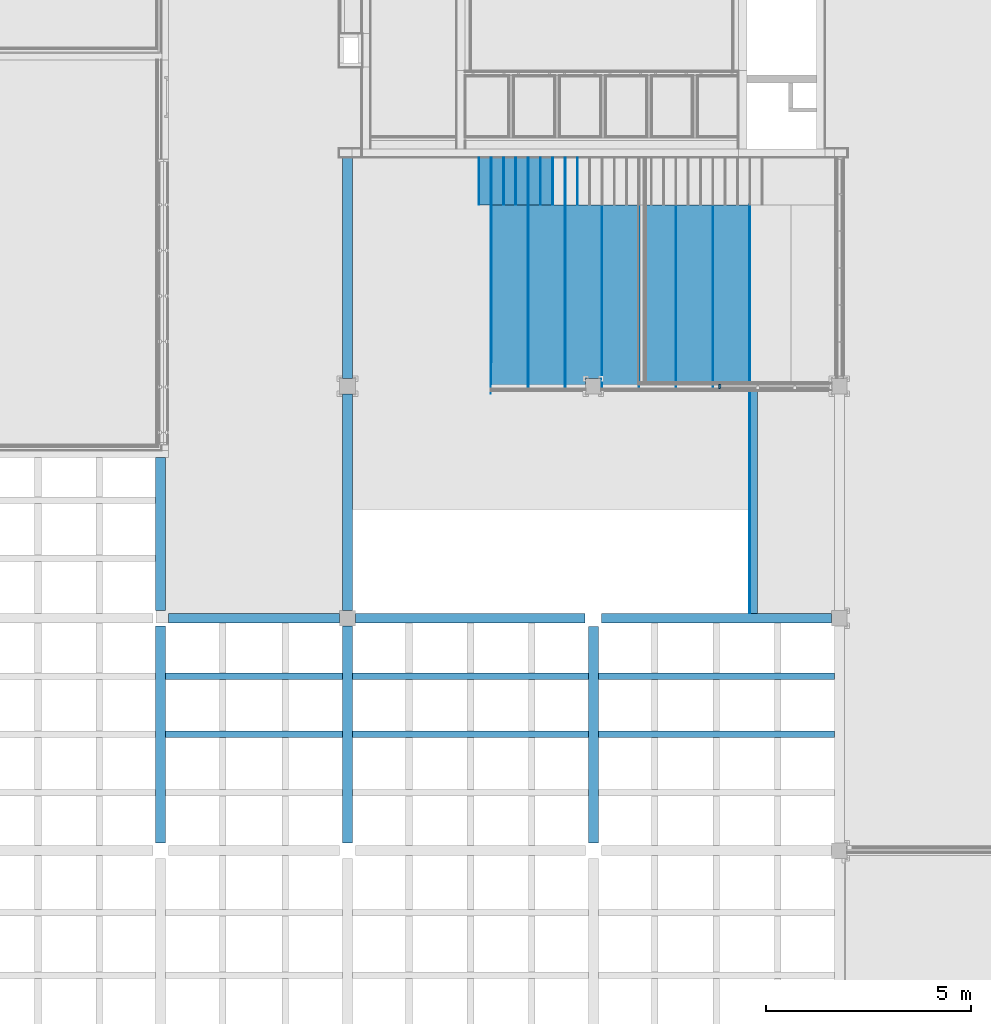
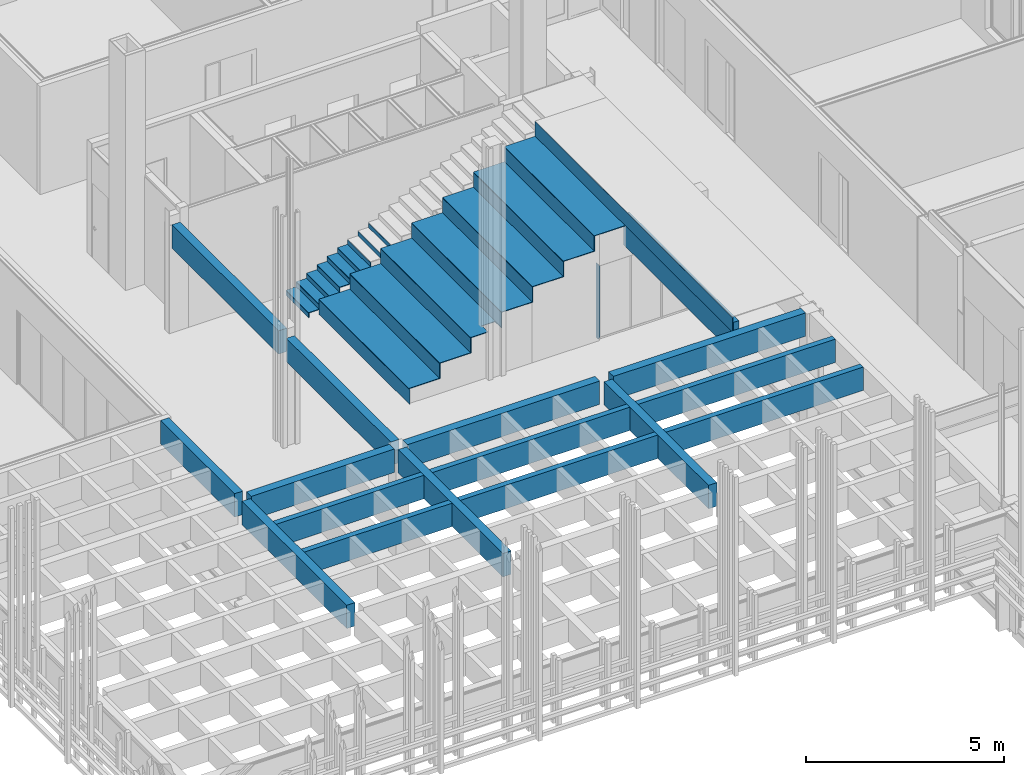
# One storey, part 38 of 139: 31 members, 16 beams, 3 elements without a shape of their own.
"""IFC2X3 building model written with IfcOpenShell, lengths in millimetres."""

from ifc_helpers import new_model, entity, si_unit, converted_unit, derived_unit, money_unit, direction, frame, origin_with_axes, place, context, subcontext, project, spatial, faceted_brep, material, type_object, element, aggregate, save


model = new_model("IFC2X3")

# Units and contexts
model_context = context("Model", 3, precision=0.01, world=origin_with_axes(), true_north=direction((0.0, 1.0)))
body_context = subcontext(model_context, "Body", "Model", "MODEL_VIEW")
ifc_project = project(units=[si_unit("LENGTHUNIT", "METRE", prefix="MILLI"), si_unit("AREAUNIT", "SQUARE_METRE"), si_unit("VOLUMEUNIT", "CUBIC_METRE"), converted_unit("PLANEANGLEUNIT", "DEGREE", entity("IfcPlaneAngleMeasure", 0.0174532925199), si_unit("PLANEANGLEUNIT", "RADIAN"), dimensions=[0, 0, 0, 0, 0, 0, 0]), money_unit("EUR"), converted_unit("TIMEUNIT", "Year", entity("IfcTimeMeasure", 31556926.0), si_unit("TIMEUNIT", "SECOND"), dimensions=[0, 0, 1, 0, 0, 0, 0]), si_unit("MASSUNIT", "GRAM", prefix="KILO"), si_unit("THERMODYNAMICTEMPERATUREUNIT", "DEGREE_CELSIUS"), si_unit("LUMINOUSINTENSITYUNIT", "LUMEN"), si_unit("ENERGYUNIT", "JOULE", prefix="MEGA"), derived_unit("THERMALCONDUCTANCEUNIT", [(si_unit("POWERUNIT", "WATT"), 1), (si_unit("LENGTHUNIT", "METRE"), -1), (si_unit("THERMODYNAMICTEMPERATUREUNIT", "KELVIN"), -1)]), derived_unit("SPECIFICHEATCAPACITYUNIT", [(si_unit("ENERGYUNIT", "JOULE"), 1), (si_unit("MASSUNIT", "GRAM", prefix="KILO"), -1), (si_unit("THERMODYNAMICTEMPERATUREUNIT", "KELVIN"), -1)]), derived_unit("MASSDENSITYUNIT", [(si_unit("MASSUNIT", "GRAM", prefix="KILO"), 1), (si_unit("VOLUMEUNIT", "CUBIC_METRE"), -1)])], contexts=[model_context])

# Site, building, storey
site_placement = place(None, origin_with_axes())
site = spatial("IfcSite", under=ifc_project, at=site_placement, Name="Kolde pst 67a", CompositionType="ELEMENT")
building_placement = place(site_placement, origin_with_axes())
building = spatial("IfcBuilding", under=site, at=building_placement, Name="Riigigümnaasium", CompositionType="ELEMENT")
storey_placement = place(building_placement, frame((0.0, 0.0, 4600.0), z_axis=(0.0, 0.0, 1.0), x_axis=(1.0, 0.0, 0.0)))
storey = spatial("IfcBuildingStorey", under=building, at=storey_placement, Name="2. korrus", CompositionType="ELEMENT", Elevation=4600.0)

# Stair, members
stair_1_placement = place(storey_placement, frame((39441.4880734, 44504.9999526, 0.0), z_axis=(0.0, 0.0, 1.0), x_axis=(1.0, 0.0, 0.0)))
stair_1 = element("IfcStair", 1, at=stair_1_placement, inside=storey, Name="Aula astmed", ShapeType="NOTDEFINED")
ifc_material_1 = material(Name="_VIIMISTLUSKIHT - viimistlus vastavalt SA osale")
member_type_1 = type_object("IfcMemberType", Name="IfcMember", PredefinedType="USERDEFINED")
member_1_placement = place(stair_1_placement, frame((-5.56923396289e-07, 575.0, 136.25), z_axis=(0.0, 0.0, 1.0), x_axis=(9.68563886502e-10, -1.0, 0.0)))
member_1 = element("IfcMember", 2, at=member_1_placement, type_object=member_type_1, material=ifc_material_1, Name="TV TÕUS - 163", ObjectType="Stair Riser", context=body_context, shape_type="Brep", body=[
    faceted_brep([(575.0, 0.0, 0.0), (575.0, 20.0, 0.0), (-575.0, 20.0, 0.0), (-575.0, 0.0, 0.0), (575.0, 0.0, -136.25), (575.0, 20.0, -136.25), (-575.0, 20.0, -136.25), (-575.0, 0.0, -136.25)], [[[0, 1, 2, 3]], [[0, 4, 5, 1]], [[1, 5, 6, 2]], [[3, 2, 6, 7]], [[4, 0, 3, 7]], [[5, 4, 7, 6]]]),
])
member_2_placement = place(stair_1_placement, frame((299.999999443, 575.000000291, 292.5), z_axis=(0.0, 0.0, 1.0), x_axis=(9.68563876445e-10, -1.0, 0.0)))
member_2 = element("IfcMember", 3, at=member_2_placement, type_object=member_type_1, material=ifc_material_1, Name="TV TÕUS - 164", ObjectType="Stair Riser", context=body_context, shape_type="Brep", body=[
    faceted_brep([(575.0, 0.0, 0.0), (575.0, 20.0, 0.0), (-575.0, 20.0, 0.0), (-575.0, 0.0, 0.0), (575.0, 0.0, -136.25), (575.0, 20.0, -136.25), (-575.0, 20.0, -136.25), (-575.0, 0.0, -136.25)], [[[0, 1, 2, 3]], [[0, 4, 5, 1]], [[1, 5, 6, 2]], [[3, 2, 6, 7]], [[4, 0, 3, 7]], [[5, 4, 7, 6]]]),
])
member_3_placement = place(stair_1_placement, frame((599.999999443, 575.000000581, 448.75), z_axis=(0.0, 0.0, 1.0), x_axis=(9.68563876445e-10, -1.0, 0.0)))
member_3 = element("IfcMember", 4, at=member_3_placement, type_object=member_type_1, material=ifc_material_1, Name="TV TÕUS - 165", ObjectType="Stair Riser", context=body_context, shape_type="Brep", body=[
    faceted_brep([(575.0, 0.0, 0.0), (575.0, 20.0, 0.0), (-575.0, 20.0, 0.0), (-575.0, 0.0, 0.0), (575.0, 0.0, -136.25), (575.0, 20.0, -136.25), (-575.0, 20.0, -136.25), (-575.0, 0.0, -136.25)], [[[0, 1, 2, 3]], [[0, 4, 5, 1]], [[1, 5, 6, 2]], [[3, 2, 6, 7]], [[4, 0, 3, 7]], [[5, 4, 7, 6]]]),
])
member_4_placement = place(stair_1_placement, frame((899.999999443, 575.000000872, 605.0), z_axis=(0.0, 0.0, 1.0), x_axis=(9.68563876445e-10, -1.0, 0.0)))
member_4 = element("IfcMember", 5, at=member_4_placement, type_object=member_type_1, material=ifc_material_1, Name="TV TÕUS - 166", ObjectType="Stair Riser", context=body_context, shape_type="Brep", body=[
    faceted_brep([(575.0, 0.0, 0.0), (575.0, 20.0, 0.0), (-575.0, 20.0, 0.0), (-575.0, 0.0, 0.0), (575.0, 0.0, -136.25), (575.0, 20.0, -136.25), (-575.0, 20.0, -136.25), (-575.0, 0.0, -136.25)], [[[0, 1, 2, 3]], [[0, 4, 5, 1]], [[1, 5, 6, 2]], [[3, 2, 6, 7]], [[4, 0, 3, 7]], [[5, 4, 7, 6]]]),
])
member_5_placement = place(stair_1_placement, frame((1199.99999944, 575.000001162, 761.25), z_axis=(0.0, 0.0, 1.0), x_axis=(9.68563972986e-10, -1.0, 0.0)))
member_5 = element("IfcMember", 6, at=member_5_placement, type_object=member_type_1, material=ifc_material_1, Name="TV TÕUS - 167", ObjectType="Stair Riser", context=body_context, shape_type="Brep", body=[
    faceted_brep([(575.0, 0.0, 0.0), (575.0, 20.0, 0.0), (-575.0, 20.0, 0.0), (-575.0, 0.0, 0.0), (575.0, 0.0, -136.25), (575.0, 20.0, -136.25), (-575.0, 20.0, -136.25), (-575.0, 0.0, -136.25)], [[[0, 1, 2, 3]], [[0, 4, 5, 1]], [[1, 5, 6, 2]], [[3, 2, 6, 7]], [[4, 0, 3, 7]], [[5, 4, 7, 6]]]),
])
member_6_placement = place(stair_1_placement, frame((1499.99999944, 575.000001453, 917.5), z_axis=(0.0, 0.0, 1.0), x_axis=(9.68563972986e-10, -1.0, 0.0)))
member_6 = element("IfcMember", 7, at=member_6_placement, type_object=member_type_1, material=ifc_material_1, Name="TV TÕUS - 168", ObjectType="Stair Riser", context=body_context, shape_type="Brep", body=[
    faceted_brep([(575.0, 0.0, 0.0), (575.0, 20.0, 0.0), (-575.0, 20.0, 0.0), (-575.0, 0.0, 0.0), (575.0, 0.0, -136.25), (575.0, 20.0, -136.25), (-575.0, 20.0, -136.25), (-575.0, 0.0, -136.25)], [[[0, 1, 2, 3]], [[0, 4, 5, 1]], [[1, 5, 6, 2]], [[3, 2, 6, 7]], [[4, 0, 3, 7]], [[5, 4, 7, 6]]]),
])
member_7_placement = place(stair_1_placement, frame((1799.99999944, 575.000001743, 1073.75), z_axis=(0.0, 0.0, 1.0), x_axis=(9.68563972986e-10, -1.0, 0.0)))
member_7 = element("IfcMember", 8, at=member_7_placement, type_object=member_type_1, material=ifc_material_1, Name="TV TÕUS - 169", ObjectType="Stair Riser", context=body_context, shape_type="Brep", body=[
    faceted_brep([(575.0, 0.0, 0.0), (575.0, 20.0, 0.0), (-575.0, 20.0, 0.0), (-575.0, 0.0, 0.0), (575.0, 0.0, -136.25), (575.0, 20.0, -136.25), (-575.0, 20.0, -136.25), (-575.0, 0.0, -136.25)], [[[0, 1, 2, 3]], [[0, 4, 5, 1]], [[1, 5, 6, 2]], [[3, 2, 6, 7]], [[4, 0, 3, 7]], [[5, 4, 7, 6]]]),
])
member_8_placement = place(stair_1_placement, frame((2099.99999944, 575.000002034, 1230.0), z_axis=(0.0, 0.0, 1.0), x_axis=(9.68563972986e-10, -1.0, 0.0)))
member_8 = element("IfcMember", 9, at=member_8_placement, type_object=member_type_1, material=ifc_material_1, Name="TV TÕUS - 170", ObjectType="Stair Riser", context=body_context, shape_type="Brep", body=[
    faceted_brep([(575.0, 0.0, 0.0), (575.0, 20.0, 0.0), (-575.0, 20.0, 0.0), (-575.0, 0.0, 0.0), (575.0, 0.0, -136.25), (575.0, 20.0, -136.25), (-575.0, 20.0, -136.25), (-575.0, 0.0, -136.25)], [[[0, 1, 2, 3]], [[0, 4, 5, 1]], [[1, 5, 6, 2]], [[3, 2, 6, 7]], [[4, 0, 3, 7]], [[5, 4, 7, 6]]]),
])
member_9_placement = place(stair_1_placement, frame((2399.99999944, 575.000002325, 1386.25), z_axis=(0.0, 0.0, 1.0), x_axis=(9.68563972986e-10, -1.0, 0.0)))
member_9 = element("IfcMember", 10, at=member_9_placement, type_object=member_type_1, material=ifc_material_1, Name="TV TÕUS - 171", ObjectType="Stair Riser", context=body_context, shape_type="Brep", body=[
    faceted_brep([(575.0, 0.0, 0.0), (575.0, 20.0, 0.0), (-575.0, 20.0, 0.0), (-575.0, 0.0, 0.0), (575.0, 0.0, -136.25), (575.0, 20.0, -136.25), (-575.0, 20.0, -136.25), (-575.0, 0.0, -136.25)], [[[0, 1, 2, 3]], [[0, 4, 5, 1]], [[1, 5, 6, 2]], [[3, 2, 6, 7]], [[4, 0, 3, 7]], [[5, 4, 7, 6]]]),
])

stair_2_placement = place(storey_placement, frame((40219.9992293, 44504.9999598, 0.0), z_axis=(0.0, 0.0, 1.0), x_axis=(1.0, 0.0, 0.0)))
stair_2 = element("IfcStair", 11, at=stair_2_placement, inside=storey, Name="Aula astmed", ShapeType="NOTDEFINED")
member_10_placement = place(stair_2_placement, frame((-479.999998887, -2300.0, 448.75), z_axis=(0.0, 0.0, 1.0), x_axis=(0.0, -1.0, 0.0)))
member_10 = element("IfcMember", 12, at=member_10_placement, type_object=member_type_1, material=ifc_material_1, Name="TV TÕUS - 197", ObjectType="Stair Riser", context=body_context, shape_type="Brep", body=[
    faceted_brep([(2300.0, 0.0, 0.0), (1426.87197604, 20.0, 0.0), (-2300.0, 20.0, 0.0), (-2300.0, 0.0, 0.0), (2300.0, 0.0, -448.75), (1426.87197604, 20.0, -448.75), (-2300.0, 20.0, -448.75), (-2300.0, 0.0, -448.75)], [[[0, 1, 2, 3]], [[0, 4, 5, 1]], [[1, 5, 6, 2]], [[3, 2, 6, 7]], [[4, 0, 3, 7]], [[5, 4, 7, 6]]]),
])
member_11_placement = place(stair_2_placement, frame((420.000000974, -2300.0, 917.5), z_axis=(0.0, 0.0, 1.0), x_axis=(0.0, -1.0, 0.0)))
member_11 = element("IfcMember", 13, at=member_11_placement, type_object=member_type_1, material=ifc_material_1, Name="TV TÕUS - 198", ObjectType="Stair Riser", context=body_context, shape_type="Brep", body=[
    faceted_brep([(2235.00004126, 0.0, 0.0), (2235.00004123, 20.0, 0.0), (-2300.0, 20.0, 0.0), (-2300.0, 0.0, 0.0), (2235.00004126, 0.0, -448.75), (2235.00004123, 20.0, -448.75), (-2300.0, 20.0, -448.75), (-2300.0, 0.0, -448.75)], [[[0, 1, 2, 3]], [[0, 4, 5, 1]], [[1, 5, 6, 2]], [[3, 2, 6, 7]], [[4, 0, 3, 7]], [[5, 4, 7, 6]]]),
])
member_12_placement = place(stair_2_placement, frame((1320.00000083, -2300.0, 1386.25), z_axis=(0.0, 0.0, 1.0), x_axis=(0.0, -1.0, 0.0)))
member_12 = element("IfcMember", 14, at=member_12_placement, type_object=member_type_1, material=ifc_material_1, Name="TV TÕUS - 199", ObjectType="Stair Riser", context=body_context, shape_type="Brep", body=[
    faceted_brep([(2235.00004126, 0.0, 0.0), (2235.00004123, 20.0, 0.0), (-2300.0, 20.0, 0.0), (-2300.0, 0.0, 0.0), (2235.00004126, 0.0, -448.75), (2235.00004123, 20.0, -448.75), (-2300.0, 20.0, -448.75), (-2300.0, 0.0, -448.75)], [[[0, 1, 2, 3]], [[0, 4, 5, 1]], [[1, 5, 6, 2]], [[3, 2, 6, 7]], [[4, 0, 3, 7]], [[5, 4, 7, 6]]]),
])
member_13_placement = place(stair_2_placement, frame((2220.0000007, -2300.0, 1855.0), z_axis=(0.0, 0.0, 1.0), x_axis=(0.0, -1.0, 0.0)))
member_13 = element("IfcMember", 15, at=member_13_placement, type_object=member_type_1, material=ifc_material_1, Name="TV TÕUS - 200", ObjectType="Stair Riser", context=body_context, shape_type="Brep", body=[
    faceted_brep([(2235.00004126, 0.0, 0.0), (2235.00004123, 20.0, 0.0), (-2300.0, 20.0, 0.0), (-2300.0, 0.0, 0.0), (2235.00004126, 0.0, -448.75), (2235.00004123, 20.0, -448.75), (-2300.0, 20.0, -448.75), (-2300.0, 0.0, -448.75)], [[[0, 1, 2, 3]], [[0, 4, 5, 1]], [[1, 5, 6, 2]], [[3, 2, 6, 7]], [[4, 0, 3, 7]], [[5, 4, 7, 6]]]),
])
member_14_placement = place(stair_2_placement, frame((3120.00000056, -2300.0, 2323.75), z_axis=(0.0, 0.0, 1.0), x_axis=(0.0, -1.0, 0.0)))
member_14 = element("IfcMember", 16, at=member_14_placement, type_object=member_type_1, material=ifc_material_1, Name="TV TÕUS - 201", ObjectType="Stair Riser", context=body_context, shape_type="Brep", body=[
    faceted_brep([(2235.00004126, 0.0, 0.0), (2235.00004123, 20.0, 0.0), (-2300.0, 20.0, 0.0), (-2300.0, 0.0, 0.0), (2235.00004126, 0.0, -448.75), (2235.00004123, 20.0, -448.75), (-2300.0, 20.0, -448.75), (-2300.0, 0.0, -448.75)], [[[0, 1, 2, 3]], [[0, 4, 5, 1]], [[1, 5, 6, 2]], [[3, 2, 6, 7]], [[4, 0, 3, 7]], [[5, 4, 7, 6]]]),
])
member_15_placement = place(stair_2_placement, frame((4020.00000042, -2300.0, 2792.5), z_axis=(0.0, 0.0, 1.0), x_axis=(0.0, -1.0, 0.0)))
member_15 = element("IfcMember", 17, at=member_15_placement, type_object=member_type_1, material=ifc_material_1, Name="TV TÕUS - 202", ObjectType="Stair Riser", context=body_context, shape_type="Brep", body=[
    faceted_brep([(2235.00004126, 0.0, 0.0), (2235.00004123, 20.0, 0.0), (-2300.0, 20.0, 0.0), (-2300.0, 0.0, 0.0), (2235.00004126, 0.0, -448.75), (2235.00004123, 20.0, -448.75), (-2300.0, 20.0, -448.75), (-2300.0, 0.0, -448.75)], [[[0, 1, 2, 3]], [[0, 4, 5, 1]], [[1, 5, 6, 2]], [[3, 2, 6, 7]], [[4, 0, 3, 7]], [[5, 4, 7, 6]]]),
])
member_16_placement = place(stair_2_placement, frame((4920.00000028, -2300.0, 3261.25), z_axis=(0.0, 0.0, 1.0), x_axis=(0.0, -1.0, 0.0)))
member_16 = element("IfcMember", 18, at=member_16_placement, type_object=member_type_1, material=ifc_material_1, Name="TV TÕUS - 203", ObjectType="Stair Riser", context=body_context, shape_type="Brep", body=[
    faceted_brep([(2235.00004126, 0.0, 0.0), (2235.00004123, 20.0, 0.0), (-2300.0, 20.0, 0.0), (-2300.0, 0.0, 0.0), (2235.00004126, 0.0, -448.75), (2235.00004123, 20.0, -448.75), (-2300.0, 20.0, -448.75), (-2300.0, 0.0, -448.75)], [[[0, 1, 2, 3]], [[0, 4, 5, 1]], [[1, 5, 6, 2]], [[3, 2, 6, 7]], [[4, 0, 3, 7]], [[5, 4, 7, 6]]]),
])
member_17_placement = place(stair_2_placement, frame((5820.00000014, -2300.0, 3730.0), z_axis=(0.0, 0.0, 1.0), x_axis=(0.0, -1.0, 0.0)))
member_17 = element("IfcMember", 19, at=member_17_placement, type_object=member_type_1, material=ifc_material_1, Name="TV TÕUS - 204", ObjectType="Stair Riser", context=body_context, shape_type="Brep", body=[
    faceted_brep([(7644.99995982, 0.0, 0.0), (7644.99995982, 20.0, 0.0), (-2300.0, 20.0, 0.0), (-2300.0, 0.0, 0.0), (7644.99995982, 0.0, -448.75), (7644.99995982, 20.0, -448.75), (-2300.0, 20.0, -448.75), (-2300.0, 0.0, -448.75)], [[[0, 1, 2, 3]], [[0, 4, 5, 1]], [[1, 5, 6, 2]], [[3, 2, 6, 7]], [[4, 0, 3, 7]], [[5, 4, 7, 6]]]),
])

# Member
member_type_2 = type_object("IfcMemberType", Name="IfcMember", PredefinedType="USERDEFINED")
member_18_placement = place(stair_1_placement, frame((-5.56923396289e-07, 575.0, 156.25), z_axis=(0.0, 0.0, 1.0), x_axis=(9.68563886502e-10, -1.0, 0.0)))
member_18 = element("IfcMember", 20, at=member_18_placement, type_object=member_type_2, material=ifc_material_1, Name="TV ASTE - 163", ObjectType="Stair Tread", context=body_context, shape_type="Brep", body=[
    faceted_brep([(-575.0, 0.0, -20.0), (575.0, 0.0, -20.0), (575.0, 0.0, 0.0), (-575.0, 0.0, 0.0), (-575.0, 320.00000112, -20.0), (575.0, 320.000000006, -20.0), (575.0, 320.000000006, 0.0), (-575.0, 320.00000112, 0.0)], [[[0, 1, 2, 3]], [[0, 4, 5, 1]], [[1, 5, 6, 2]], [[3, 2, 6, 7]], [[4, 0, 3, 7]], [[5, 4, 7, 6]]]),
])

member_19_placement = place(stair_1_placement, frame((299.999999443, 575.000000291, 312.5), z_axis=(0.0, 0.0, 1.0), x_axis=(9.68563876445e-10, -1.0, 0.0)))
member_19 = element("IfcMember", 21, at=member_19_placement, type_object=member_type_2, material=ifc_material_1, Name="TV ASTE - 164", ObjectType="Stair Tread", context=body_context, shape_type="Brep", body=[
    faceted_brep([(-575.0, 0.0, -20.0), (575.0, 0.0, -20.0), (575.0, 0.0, 0.0), (-575.0, 0.0, 0.0), (-575.0, 320.00000112, -20.0), (575.0, 320.000000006, -20.0), (575.0, 320.000000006, 0.0), (-575.0, 320.00000112, 0.0)], [[[0, 1, 2, 3]], [[0, 4, 5, 1]], [[1, 5, 6, 2]], [[3, 2, 6, 7]], [[4, 0, 3, 7]], [[5, 4, 7, 6]]]),
])

member_20_placement = place(stair_1_placement, frame((599.999999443, 575.000000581, 468.75), z_axis=(0.0, 0.0, 1.0), x_axis=(9.68563876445e-10, -1.0, 0.0)))
member_20 = element("IfcMember", 22, at=member_20_placement, type_object=member_type_2, material=ifc_material_1, Name="TV ASTE - 165", ObjectType="Stair Tread", context=body_context, shape_type="Brep", body=[
    faceted_brep([(-575.0, 0.0, -20.0), (575.0, 0.0, -20.0), (575.0, 0.0, 0.0), (-575.0, 0.0, 0.0), (-575.0, 320.00000112, -20.0), (575.0, 320.000000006, -20.0), (575.0, 320.000000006, 0.0), (-575.0, 320.00000112, 0.0)], [[[0, 1, 2, 3]], [[0, 4, 5, 1]], [[1, 5, 6, 2]], [[3, 2, 6, 7]], [[4, 0, 3, 7]], [[5, 4, 7, 6]]]),
])

member_21_placement = place(stair_1_placement, frame((899.999999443, 575.000000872, 625.0), z_axis=(0.0, 0.0, 1.0), x_axis=(9.68563876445e-10, -1.0, 0.0)))
member_21 = element("IfcMember", 23, at=member_21_placement, type_object=member_type_2, material=ifc_material_1, Name="TV ASTE - 166", ObjectType="Stair Tread", context=body_context, shape_type="Brep", body=[
    faceted_brep([(-575.0, 0.0, -20.0), (575.0, 0.0, -20.0), (575.0, 0.0, 0.0), (-575.0, 0.0, 0.0), (-575.0, 320.00000112, -20.0), (575.0, 320.000000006, -20.0), (575.0, 320.000000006, 0.0), (-575.0, 320.00000112, 0.0)], [[[0, 1, 2, 3]], [[0, 4, 5, 1]], [[1, 5, 6, 2]], [[3, 2, 6, 7]], [[4, 0, 3, 7]], [[5, 4, 7, 6]]]),
])

member_22_placement = place(stair_1_placement, frame((1199.99999944, 575.000001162, 781.25), z_axis=(0.0, 0.0, 1.0), x_axis=(9.68563972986e-10, -1.0, 0.0)))
member_22 = element("IfcMember", 24, at=member_22_placement, type_object=member_type_2, material=ifc_material_1, Name="TV ASTE - 167", ObjectType="Stair Tread", context=body_context, shape_type="Brep", body=[
    faceted_brep([(-575.0, 0.0, -20.0), (575.0, 0.0, -20.0), (575.0, 0.0, 0.0), (-575.0, 0.0, 0.0), (-575.0, 320.00000112, -20.0), (575.0, 320.000000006, -20.0), (575.0, 320.000000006, 0.0), (-575.0, 320.00000112, 0.0)], [[[0, 1, 2, 3]], [[0, 4, 5, 1]], [[1, 5, 6, 2]], [[3, 2, 6, 7]], [[4, 0, 3, 7]], [[5, 4, 7, 6]]]),
])

member_23_placement = place(stair_1_placement, frame((1499.99999944, 575.000001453, 937.5), z_axis=(0.0, 0.0, 1.0), x_axis=(9.68563972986e-10, -1.0, 0.0)))
member_23 = element("IfcMember", 25, at=member_23_placement, type_object=member_type_2, material=ifc_material_1, Name="TV ASTE - 168", ObjectType="Stair Tread", context=body_context, shape_type="Brep", body=[
    faceted_brep([(-575.0, 0.0, -20.0), (575.0, 0.0, -20.0), (575.0, 0.0, 0.0), (-575.0, 0.0, 0.0), (-575.0, 320.00000112, -20.0), (575.0, 320.000000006, -20.0), (575.0, 320.000000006, 0.0), (-575.0, 320.00000112, 0.0)], [[[0, 1, 2, 3]], [[0, 4, 5, 1]], [[1, 5, 6, 2]], [[3, 2, 6, 7]], [[4, 0, 3, 7]], [[5, 4, 7, 6]]]),
])

aggregate(stair_1, [member_1, member_2, member_3, member_4, member_5, member_6, member_7, member_8, member_9, member_18, member_19, member_20, member_21, member_22, member_23])

member_24_placement = place(stair_2_placement, frame((-479.999998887, -2300.0, 468.75), z_axis=(0.0, 0.0, 1.0), x_axis=(0.0, -1.0, 0.0)))
member_24 = element("IfcMember", 26, at=member_24_placement, type_object=member_type_2, material=ifc_material_1, Name="TV ASTE - 201", ObjectType="Stair Tread", context=body_context, shape_type="Brep", body=[
    faceted_brep([(-2300.0, 0.0, -20.0), (2300.0, 0.0, -20.0), (2300.0, 0.0, 0.0), (-2300.0, 0.0, 0.0), (-2300.0, 920.0, -20.0), (2235.00004123, 920.0, -20.0), (2235.0000426, 1.48889866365, -20.0), (2235.0000426, 1.48889866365, 0.0), (2235.00004123, 920.0, 0.0), (-2300.0, 920.0, 0.0)], [[[0, 1, 2, 3]], [[0, 4, 5, 6, 1]], [[1, 6, 7, 2]], [[3, 2, 7, 8, 9]], [[4, 0, 3, 9]], [[5, 4, 9, 8]], [[6, 5, 8, 7]]]),
])

member_25_placement = place(stair_2_placement, frame((420.000000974, -2300.0, 937.5), z_axis=(0.0, 0.0, 1.0), x_axis=(0.0, -1.0, 0.0)))
member_25 = element("IfcMember", 27, at=member_25_placement, type_object=member_type_2, material=ifc_material_1, Name="TV ASTE - 202", ObjectType="Stair Tread", context=body_context, shape_type="Brep", body=[
    faceted_brep([(-2300.0, 0.0, -20.0), (2235.00004126, 0.0, -20.0), (2235.00004126, 0.0, 0.0), (-2300.0, 0.0, 0.0), (-2300.0, 920.000033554, -20.0), (2235.0000399, 920.000033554, -20.0), (2235.0000399, 920.000033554, 0.0), (-2300.0, 920.000033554, 0.0)], [[[0, 1, 2, 3]], [[0, 4, 5, 1]], [[1, 5, 6, 2]], [[3, 2, 6, 7]], [[4, 0, 3, 7]], [[5, 4, 7, 6]]]),
])

member_26_placement = place(stair_2_placement, frame((1320.00000083, -2300.0, 1406.25), z_axis=(0.0, 0.0, 1.0), x_axis=(0.0, -1.0, 0.0)))
member_26 = element("IfcMember", 28, at=member_26_placement, type_object=member_type_2, material=ifc_material_1, Name="TV ASTE - 203", ObjectType="Stair Tread", context=body_context, shape_type="Brep", body=[
    faceted_brep([(2235.00004051, 509.999999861, 0.0), (1925.00004303, 509.999999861, 0.0), (1925.00004303, 889.999999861, 0.0), (2235.00003994, 889.999999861, 0.0), (2235.0000399, 920.000033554, 0.0), (-2300.0, 920.000033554, 0.0), (-2300.0, 0.0, 0.0), (2235.00004126, 0.0, 0.0), (2235.00004051, 509.999999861, -20.0), (1925.00004303, 509.999999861, -20.0), (1925.00004303, 889.999999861, -20.0), (2235.00003994, 889.999999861, -20.0), (2235.0000399, 920.000033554, -20.0), (-2300.0, 920.000033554, -20.0), (-2300.0, 0.0, -20.0), (2235.00004126, 0.0, -20.0)], [[[0, 1, 2, 3, 4, 5, 6, 7]], [[1, 0, 8, 9]], [[2, 1, 9, 10]], [[3, 2, 10, 11]], [[3, 11, 12, 4]], [[4, 12, 13, 5]], [[5, 13, 14, 6]], [[6, 14, 15, 7]], [[8, 0, 7, 15]], [[9, 8, 15, 14, 13, 12, 11, 10]]]),
])

member_27_placement = place(stair_2_placement, frame((2220.0000007, -2300.0, 1875.0), z_axis=(0.0, 0.0, 1.0), x_axis=(0.0, -1.0, 0.0)))
member_27 = element("IfcMember", 29, at=member_27_placement, type_object=member_type_2, material=ifc_material_1, Name="TV ASTE - 204", ObjectType="Stair Tread", context=body_context, shape_type="Brep", body=[
    faceted_brep([(-2300.0, 0.0, -20.0), (2235.00004126, 0.0, -20.0), (2235.00004126, 0.0, 0.0), (-2300.0, 0.0, 0.0), (-2300.0, 920.000033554, -20.0), (2235.0000399, 920.000033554, -20.0), (2235.0000399, 920.000033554, 0.0), (-2300.0, 920.000033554, 0.0)], [[[0, 1, 2, 3]], [[0, 4, 5, 1]], [[1, 5, 6, 2]], [[3, 2, 6, 7]], [[4, 0, 3, 7]], [[5, 4, 7, 6]]]),
])

member_28_placement = place(stair_2_placement, frame((3120.00000056, -2300.0, 2343.75), z_axis=(0.0, 0.0, 1.0), x_axis=(0.0, -1.0, 0.0)))
member_28 = element("IfcMember", 30, at=member_28_placement, type_object=member_type_2, material=ifc_material_1, Name="TV ASTE - 205", ObjectType="Stair Tread", context=body_context, shape_type="Brep", body=[
    faceted_brep([(-2300.0, 0.0, -20.0), (2235.00003726, 0.0, -20.0), (2235.00003726, 0.0, 0.0), (-2300.0, 0.0, 0.0), (-2300.0, 920.000032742, -20.0), (2235.00003723, 920.000032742, -20.0), (2235.00003723, 19.9999715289, -20.0), (2235.00003723, 19.9999715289, 0.0), (2235.00003723, 920.000032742, 0.0), (-2300.0, 920.000032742, 0.0)], [[[0, 1, 2, 3]], [[0, 4, 5, 6, 1]], [[1, 6, 7, 2]], [[3, 2, 7, 8, 9]], [[4, 0, 3, 9]], [[5, 4, 9, 8]], [[6, 5, 8, 7]]]),
])

member_29_placement = place(stair_2_placement, frame((4020.00000042, -2300.0, 2812.5), z_axis=(0.0, 0.0, 1.0), x_axis=(0.0, -1.0, 0.0)))
member_29 = element("IfcMember", 31, at=member_29_placement, type_object=member_type_2, material=ifc_material_1, Name="TV ASTE - 206", ObjectType="Stair Tread", context=body_context, shape_type="Brep", body=[
    faceted_brep([(-2300.0, 0.0, -20.0), (2235.00004126, 0.0, -20.0), (2235.00004126, 0.0, 0.0), (-2300.0, 0.0, 0.0), (-2300.0, 920.000033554, -20.0), (2235.0000399, 920.000033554, -20.0), (2235.0000399, 920.000033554, 0.0), (-2300.0, 920.000033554, 0.0)], [[[0, 1, 2, 3]], [[0, 4, 5, 1]], [[1, 5, 6, 2]], [[3, 2, 6, 7]], [[4, 0, 3, 7]], [[5, 4, 7, 6]]]),
])

member_30_placement = place(stair_2_placement, frame((4920.00000028, -2300.0, 3281.25), z_axis=(0.0, 0.0, 1.0), x_axis=(0.0, -1.0, 0.0)))
member_30 = element("IfcMember", 32, at=member_30_placement, type_object=member_type_2, material=ifc_material_1, Name="TV ASTE - 207", ObjectType="Stair Tread", context=body_context, shape_type="Brep", body=[
    faceted_brep([(-2300.0, 0.0, -20.0), (2235.00003723, 0.0, -20.0), (2235.00003723, 0.0, 0.0), (-2300.0, 0.0, 0.0), (-2300.0, 930.000020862, -20.0), (2235.00003723, 930.000020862, -20.0), (2235.00003723, 930.000020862, 0.0), (-2300.0, 930.000020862, 0.0)], [[[0, 1, 2, 3]], [[0, 4, 5, 1]], [[1, 5, 6, 2]], [[3, 2, 6, 7]], [[4, 0, 3, 7]], [[5, 4, 7, 6]]]),
])

aggregate(stair_2, [member_10, member_11, member_12, member_13, member_14, member_15, member_16, member_17, member_24, member_25, member_26, member_27, member_28, member_29, member_30])

# Curtain wall, member
curtain_wall_type = type_object("IfcCurtainWallType", Name="Curtain Wall Type", PredefinedType="NOTDEFINED")
curtain_wall_placement = place(storey_placement, frame((47589.9854607, 40044.9999177, -2.01657108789e-05), z_axis=(0.0, 0.0, 1.0), x_axis=(1.0, 0.0, 0.0)))
curtain_wall = element("IfcCurtainWall", 33, at=curtain_wall_placement, inside=storey, type_object=curtain_wall_type, Name="KLAASSEIN")
ifc_material_2 = material(Name="_KANDETARIND - puitkarkass")
member_type_3 = type_object("IfcMemberType", Name="Boundary Frame 50 x 120", PredefinedType="MEMBER")
member_31_placement = place(curtain_wall_placement, frame((-2300.00001788, 0.0, 0.0), z_axis=(0.0, 0.0, 1.0), x_axis=(1.0, 0.0, 0.0)))
member_31 = element("IfcMember", 34, at=member_31_placement, type_object=member_type_3, material=ifc_material_2, Name="RF RAAM SERV-146", ObjectType="MEMBER", context=body_context, shape_type="Brep", body=[
    faceted_brep([(30.0, 10.0, 2270.00002017), (50.0, 10.0, 2250.00002017), (50.0, 100.0, 2250.00002017), (0.0, 100.0, 2300.00002017), (0.0, -20.0, 2300.00002017), (50.0, -20.0, 2250.00002017), (50.0, -10.0, 2250.00002017), (30.0, -10.0, 2270.00002017), (30.0, 10.0, 30.0), (50.0, 10.0, 50.0), (50.0, 100.0, 50.0), (0.0, 100.0, 0.0), (0.0, -20.0, 0.0), (50.0, -20.0, 50.0), (50.0, -10.0, 50.0), (30.0, -10.0, 30.0)], [[[0, 1, 2, 3, 4, 5, 6, 7]], [[0, 8, 9, 1]], [[9, 10, 2, 1]], [[2, 10, 11, 3]], [[3, 11, 12, 4]], [[4, 12, 13, 5]], [[6, 5, 13, 14]], [[14, 15, 7, 6]], [[7, 15, 8, 0]], [[8, 15, 14, 13, 12, 11, 10, 9]]]),
])
aggregate(curtain_wall, [member_31])

# Beams
ifc_material_3 = material(Name="_KANDETARIND - liimpuit vastavalt EK osale")
beam_type_1 = type_object("IfcBeamType", Name="_KANDETARIND - liimpuit vastavalt EK osale 240 x 720", PredefinedType="BEAM")
beam_1_placement = place(storey_placement, frame((36249.99923, 34249.9999729, 2959.99999374), z_axis=(0.0, 0.0, 1.0), x_axis=(-1.0, 0.0, 0.0)))
element("IfcBeam", 35, at=beam_1_placement, inside=storey, type_object=beam_type_1, material=ifc_material_3, Name="Tala", ObjectType="BEAM", context=body_context, shape_type="Brep", body=[
    faceted_brep([(120.0, 0.0, 360.0), (120.0, 5280.00027315, 360.0), (-120.0, 5280.00027315, 360.0), (-120.0, 0.0, 360.0), (120.0, 0.0, -360.0), (120.0, 5280.00027315, -360.0), (-120.0, 5280.00027315, -360.0), (-120.0, 0.0, -360.0)], [[[0, 1, 2, 3]], [[4, 5, 1, 0]], [[2, 1, 5, 6]], [[3, 2, 6, 7]], [[4, 0, 3, 7]], [[7, 6, 5, 4]]]),
])
beam_2_placement = place(storey_placement, frame((36250.0135496, 45669.9999598, 2960.0), z_axis=(0.0, 0.0, 1.0), x_axis=(-1.0, 0.0, 0.0)))
element("IfcBeam", 36, at=beam_2_placement, inside=storey, type_object=beam_type_1, material=ifc_material_3, Name="Tala", ObjectType="BEAM", context=body_context, shape_type="Brep", body=[
    faceted_brep([(120.0, 0.0, 360.0), (120.0, 5389.98635063, 360.0), (-120.0, 5389.98635063, 360.0), (-120.0, 0.0, 360.0), (120.0, 0.0, -360.0), (120.0, 5389.98635063, -360.0), (-120.0, 5389.98635063, -360.0), (-120.0, 0.0, -360.0)], [[[0, 1, 2, 3]], [[4, 5, 1, 0]], [[2, 1, 5, 6]], [[3, 2, 6, 7]], [[4, 0, 3, 7]], [[7, 6, 5, 4]]]),
])
beam_3_placement = place(storey_placement, frame((36249.99923, 39899.9999166, 2960.0), z_axis=(0.0, 0.0, 1.0), x_axis=(-0.999999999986, -5.22611550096e-06, 0.0)))
element("IfcBeam", 37, at=beam_3_placement, inside=storey, type_object=beam_type_1, material=ifc_material_3, Name="Tala", ObjectType="BEAM", context=body_context, shape_type="Brep", body=[
    faceted_brep([(120.0, 0.0, 360.0), (120.0, 5270.00057096, 360.0), (-120.0, 5270.00057096, 360.0), (-120.0, 0.0, 360.0), (120.0, 0.0, -360.0), (120.0, 5270.00057096, -360.0), (-120.0, 5270.00057096, -360.0), (-120.0, 0.0, -360.0)], [[[0, 1, 2, 3]], [[4, 5, 1, 0]], [[2, 1, 5, 6]], [[3, 2, 6, 7]], [[4, 0, 3, 7]], [[7, 6, 5, 4]]]),
])
beam_4_placement = place(storey_placement, frame((42239.99923, 34240.0, 2960.0), z_axis=(0.0, 0.0, 1.0), x_axis=(-1.0, 0.0, 0.0)))
element("IfcBeam", 38, at=beam_4_placement, inside=storey, type_object=beam_type_1, material=ifc_material_3, Name="Tala", ObjectType="BEAM", context=body_context, shape_type="Brep", body=[
    faceted_brep([(120.0, 0.0, 360.0), (120.0, 5270.00030026, 360.0), (-120.0, 5270.00030026, 360.0), (-120.0, 0.0, 360.0), (120.0, 0.0, -360.0), (120.0, 5270.00030026, -360.0), (-120.0, 5270.00030026, -360.0), (-120.0, 0.0, -360.0)], [[[0, 1, 2, 3]], [[4, 5, 1, 0]], [[2, 1, 5, 6]], [[3, 2, 6, 7]], [[4, 0, 3, 7]], [[7, 6, 5, 4]]]),
])
beam_5_placement = place(storey_placement, frame((31700.0027795, 34249.9999729, 2960.0), z_axis=(0.0, 0.0, 1.0), x_axis=(-1.0, 0.0, 0.0)))
element("IfcBeam", 39, at=beam_5_placement, inside=storey, type_object=beam_type_1, material=ifc_material_3, Name="Tala", ObjectType="BEAM", context=body_context, shape_type="Brep", body=[
    faceted_brep([(120.0, 0.0, 360.0), (120.0, 5280.00027315, 360.0), (-120.0, 5280.00027315, 360.0), (-120.0, 0.0, 360.0), (120.0, 0.0, -360.0), (120.0, 5280.00027315, -360.0), (-120.0, 5280.00027315, -360.0), (-120.0, 0.0, -360.0)], [[[0, 1, 2, 3]], [[4, 5, 1, 0]], [[2, 1, 5, 6]], [[3, 2, 6, 7]], [[4, 0, 3, 7]], [[7, 6, 5, 4]]]),
])
beam_6_placement = place(storey_placement, frame((31700.0027837, 38359.9808241, 2960.0), z_axis=(0.0, 0.0, 1.0), x_axis=(-1.0, 1.1312146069e-09, 0.0)))
element("IfcBeam", 40, at=beam_6_placement, inside=storey, type_object=beam_type_1, material=ifc_material_3, Name="Tala", ObjectType="BEAM", context=body_context, shape_type="Brep", body=[
    faceted_brep([(120.0, 0.0, 360.0), (120.0, 3729.98085119, 360.0), (-120.0, 3729.98085119, 360.0), (-120.0, 0.0, 360.0), (120.0, 0.0, -360.0), (120.0, 3729.98085119, -360.0), (-120.0, 3729.98085119, -360.0), (-120.0, 0.0, -360.0)], [[[0, 1, 2, 3]], [[4, 5, 1, 0]], [[2, 1, 5, 6]], [[3, 2, 6, 7]], [[4, 0, 3, 7]], [[7, 6, 5, 4]]]),
])
beam_7_placement = place(storey_placement, frame((31890.0027795, 34439.9999729, 2960.0), z_axis=(0.0, 0.0, 1.0), x_axis=(0.0, -1.0, 0.0)))
element("IfcBeam", 41, at=beam_7_placement, inside=storey, type_object=beam_type_1, material=ifc_material_3, Name="Tala", ObjectType="BEAM", context=body_context, shape_type="Brep", body=[
    faceted_brep([(120.0, 0.0, 360.0), (120.0, 4170.05399007, 360.0), (-120.0, 4170.05399007, 360.0), (-120.0, 0.0, 360.0), (120.0, 0.0, -360.0), (120.0, 4170.05399007, -360.0), (-120.0, 4170.05399007, -360.0), (-120.0, 0.0, -360.0)], [[[0, 1, 2, 3]], [[4, 5, 1, 0]], [[2, 1, 5, 6]], [[3, 2, 6, 7]], [[4, 0, 3, 7]], [[7, 6, 5, 4]]]),
])
for number, where, z_axis, x_axis in (
    (42, (36439.99923, 34439.9999729, 2960.0), (0.0, 0.0, 1.0), (0.0, -1.0, 0.0)),
    (43, (42439.9854607, 34439.9999729, 2960.0), (0.0, 0.0, 1.0), (0.0, -1.0, 0.0)),
):
    element("IfcBeam", number, at=place(storey_placement, frame(where, z_axis=z_axis, x_axis=x_axis)), inside=storey, type_object=beam_type_1, material=ifc_material_3, Name="Tala", ObjectType="BEAM", context=body_context, shape_type="Brep", body=[
        faceted_brep([(120.0, 0.0, 360.0), (120.0, 5600.0, 360.0), (-120.0, 5600.0, 360.0), (-120.0, 0.0, 360.0), (120.0, 0.0, -360.0), (120.0, 5600.0, -360.0), (-120.0, 5600.0, -360.0), (-120.0, 0.0, -360.0)], [[[0, 1, 2, 3]], [[4, 5, 1, 0]], [[2, 1, 5, 6]], [[3, 2, 6, 7]], [[4, 0, 3, 7]], [[7, 6, 5, 4]]]),
    ])
beam_type_2 = type_object("IfcBeamType", Name="_KANDETARIND - liimpuit vastavalt EK osale 160 x 960", PredefinedType="BEAM")
beam_8_placement = place(storey_placement, frame((46150.1877593, 40090.0087775, 3085.0), z_axis=(0.0, 0.0, 1.0), x_axis=(-0.999999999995, -3.14278951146e-06, 0.0)))
element("IfcBeam", 44, at=beam_8_placement, inside=storey, type_object=beam_type_2, material=ifc_material_3, Name="Tala", ObjectType="BEAM", context=body_context, shape_type="Brep", body=[
    faceted_brep([(80.0, 0.0, 480.0), (80.0, 5530.00905801, 480.0), (-80.0, 5530.00905801, 480.0), (-80.0, 0.0, 480.0), (80.0, 0.0, -480.0), (80.0, 5530.00905801, -480.0), (-80.0, 5530.00905801, -480.0), (-80.0, 0.0, -480.0)], [[[0, 1, 2, 3]], [[4, 5, 1, 0]], [[2, 1, 5, 6]], [[3, 2, 6, 7]], [[4, 0, 3, 7]], [[7, 6, 5, 4]]]),
])
beam_type_3 = type_object("IfcBeamType", Name="_KANDETARIND - liimpuit vastavalt EK osale 160 x 720", PredefinedType="BEAM")
beam_9_placement = place(storey_placement, frame((36129.99923, 31609.9857523, 2960.0), z_axis=(0.0, 0.0, 1.0), x_axis=(0.0, 1.0, 0.0)))
element("IfcBeam", 45, at=beam_9_placement, inside=storey, type_object=beam_type_3, material=ifc_material_3, Name="Tala", ObjectType="BEAM", context=body_context, shape_type="Brep", body=[
    faceted_brep([(80.0, 0.0, 360.0), (80.0, 4310.00341837, 360.0), (-80.0, 4310.00341837, 360.0), (-80.0, 0.0, 360.0), (80.0, 0.0, -360.0), (80.0, 4310.00341837, -360.0), (-80.0, 4310.00341837, -360.0), (-80.0, 0.0, -360.0)], [[[0, 1, 2, 3]], [[4, 5, 1, 0]], [[2, 1, 5, 6]], [[3, 2, 6, 7]], [[4, 0, 3, 7]], [[7, 6, 5, 4]]]),
])
beam_10_placement = place(storey_placement, frame((36129.99923, 33024.3861836, 2960.0), z_axis=(0.0, 0.0, 1.0), x_axis=(0.0, 1.0, 0.0)))
element("IfcBeam", 46, at=beam_10_placement, inside=storey, type_object=beam_type_3, material=ifc_material_3, Name="Tala", ObjectType="BEAM", context=body_context, shape_type="Brep", body=[
    faceted_brep([(80.0, 0.0, 360.0), (80.0, 4309.99645142, 360.0), (-80.0, 4309.99645142, 360.0), (-80.0, 0.0, 360.0), (80.0, 0.0, -360.0), (80.0, 4309.99645142, -360.0), (-80.0, 4309.99645142, -360.0), (-80.0, 0.0, -360.0)], [[[0, 1, 2, 3]], [[4, 5, 1, 0]], [[2, 1, 5, 6]], [[3, 2, 6, 7]], [[4, 0, 3, 7]], [[7, 6, 5, 4]]]),
])
for number, where, z_axis, x_axis in (
    (47, (42119.99923, 31609.9857523, 2960.0), (0.0, 0.0, 1.0), (0.0, 1.0, 0.0)),
    (48, (42119.99923, 33024.3861836, 2960.0), (0.0, 0.0, 1.0), (0.0, 1.0, 0.0)),
    (49, (48109.99923, 31609.9857523, 2960.0), (0.0, 0.0, 1.0), (0.0, 1.0, 0.0)),
    (50, (48109.99923, 33024.3861836, 2960.0), (0.0, 0.0, 1.0), (0.0, 1.0, 0.0)),
):
    element("IfcBeam", number, at=place(storey_placement, frame(where, z_axis=z_axis, x_axis=x_axis)), inside=storey, type_object=beam_type_3, material=ifc_material_3, Name="Tala", ObjectType="BEAM", context=body_context, shape_type="Brep", body=[
        faceted_brep([(80.0, 0.0, 360.0), (80.0, 5749.94706841, 360.0), (-80.0, 5749.94706841, 360.0), (-80.0, 0.0, 360.0), (80.0, 0.0, -360.0), (80.0, 5749.94706841, -360.0), (-80.0, 5749.94706841, -360.0), (-80.0, 0.0, -360.0)], [[[0, 1, 2, 3]], [[4, 5, 1, 0]], [[2, 1, 5, 6]], [[3, 2, 6, 7]], [[4, 0, 3, 7]], [[7, 6, 5, 4]]]),
    ])

save(model, "model.ifc")
